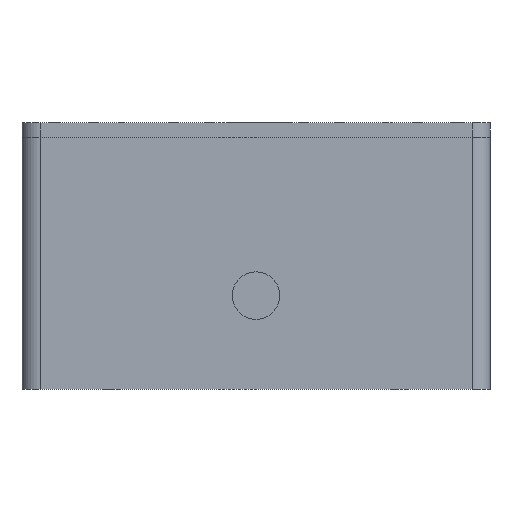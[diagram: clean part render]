
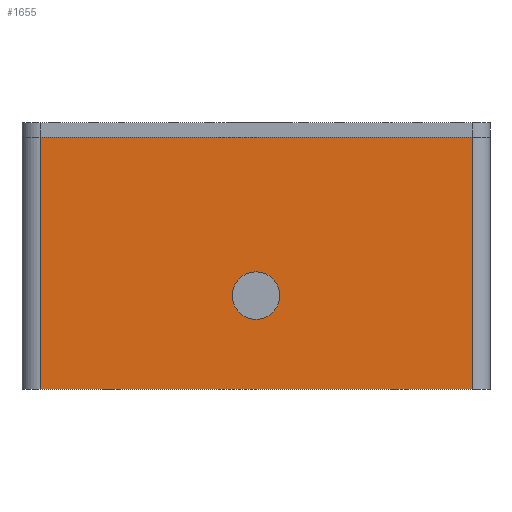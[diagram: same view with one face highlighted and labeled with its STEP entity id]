
A CAD part, front view. The second image highlights one B-rep face of the part: STEP entity #1655.
In plain terms, the highlighted planar face has unit normal (0, -1, 0).
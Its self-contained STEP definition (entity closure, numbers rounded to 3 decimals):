
#82 = PLANE('',#83);
#83 = AXIS2_PLACEMENT_3D('',#84,#85,#86);
#84 = CARTESIAN_POINT('',(0.,0.,70.));
#85 = DIRECTION('',(0.,0.,1.));
#86 = DIRECTION('',(1.,0.,0.));
#110 = CYLINDRICAL_SURFACE('',#111,5.);
#111 = AXIS2_PLACEMENT_3D('',#112,#113,#114);
#112 = CARTESIAN_POINT('',(5.,5.,0.));
#113 = DIRECTION('',(0.,0.,1.));
#114 = DIRECTION('',(-1.,-0.,0.));
#138 = PLANE('',#139);
#139 = AXIS2_PLACEMENT_3D('',#140,#141,#142);
#140 = CARTESIAN_POINT('',(0.,0.,0.));
#141 = DIRECTION('',(0.,0.,1.));
#142 = DIRECTION('',(1.,0.,0.));
#216 = VERTEX_POINT('',#217);
#217 = CARTESIAN_POINT('',(5.,0.,70.));
#239 = EDGE_CURVE('',#216,#240,#242,.T.);
#240 = VERTEX_POINT('',#241);
#241 = CARTESIAN_POINT('',(125.,0.,70.));
#242 = SURFACE_CURVE('',#243,(#247,#254),.PCURVE_S1.);
#243 = LINE('',#244,#245);
#244 = CARTESIAN_POINT('',(0.,0.,70.));
#245 = VECTOR('',#246,1.);
#246 = DIRECTION('',(1.,0.,0.));
#247 = PCURVE('',#82,#248);
#248 = DEFINITIONAL_REPRESENTATION('',(#249),#253);
#249 = LINE('',#250,#251);
#250 = CARTESIAN_POINT('',(0.,0.));
#251 = VECTOR('',#252,1.);
#252 = DIRECTION('',(1.,0.));
#253 = ( GEOMETRIC_REPRESENTATION_CONTEXT(2) 
PARAMETRIC_REPRESENTATION_CONTEXT() REPRESENTATION_CONTEXT('2D SPACE',''
  ) );
#254 = PCURVE('',#255,#260);
#255 = PLANE('',#256);
#256 = AXIS2_PLACEMENT_3D('',#257,#258,#259);
#257 = CARTESIAN_POINT('',(0.,0.,0.));
#258 = DIRECTION('',(0.,1.,0.));
#259 = DIRECTION('',(0.,0.,1.));
#260 = DEFINITIONAL_REPRESENTATION('',(#261),#265);
#261 = LINE('',#262,#263);
#262 = CARTESIAN_POINT('',(70.,0.));
#263 = VECTOR('',#264,1.);
#264 = DIRECTION('',(0.,1.));
#265 = ( GEOMETRIC_REPRESENTATION_CONTEXT(2) 
PARAMETRIC_REPRESENTATION_CONTEXT() REPRESENTATION_CONTEXT('2D SPACE',''
  ) );
#288 = CYLINDRICAL_SURFACE('',#289,5.);
#289 = AXIS2_PLACEMENT_3D('',#290,#291,#292);
#290 = CARTESIAN_POINT('',(125.,5.,0.));
#291 = DIRECTION('',(0.,0.,1.));
#292 = DIRECTION('',(1.,0.,-0.));
#1237 = VERTEX_POINT('',#1238);
#1238 = CARTESIAN_POINT('',(5.,0.,0.));
#1260 = EDGE_CURVE('',#1237,#216,#1261,.T.);
#1261 = SURFACE_CURVE('',#1262,(#1266,#1273),.PCURVE_S1.);
#1262 = LINE('',#1263,#1264);
#1263 = CARTESIAN_POINT('',(5.,0.,0.));
#1264 = VECTOR('',#1265,1.);
#1265 = DIRECTION('',(0.,0.,1.));
#1266 = PCURVE('',#110,#1267);
#1267 = DEFINITIONAL_REPRESENTATION('',(#1268),#1272);
#1268 = LINE('',#1269,#1270);
#1269 = CARTESIAN_POINT('',(1.571,0.));
#1270 = VECTOR('',#1271,1.);
#1271 = DIRECTION('',(0.,1.));
#1272 = ( GEOMETRIC_REPRESENTATION_CONTEXT(2) 
PARAMETRIC_REPRESENTATION_CONTEXT() REPRESENTATION_CONTEXT('2D SPACE',''
  ) );
#1273 = PCURVE('',#255,#1274);
#1274 = DEFINITIONAL_REPRESENTATION('',(#1275),#1279);
#1275 = LINE('',#1276,#1277);
#1276 = CARTESIAN_POINT('',(0.,5.));
#1277 = VECTOR('',#1278,1.);
#1278 = DIRECTION('',(1.,0.));
#1279 = ( GEOMETRIC_REPRESENTATION_CONTEXT(2) 
PARAMETRIC_REPRESENTATION_CONTEXT() REPRESENTATION_CONTEXT('2D SPACE',''
  ) );
#1342 = EDGE_CURVE('',#1237,#1343,#1345,.T.);
#1343 = VERTEX_POINT('',#1344);
#1344 = CARTESIAN_POINT('',(125.,0.,0.));
#1345 = SURFACE_CURVE('',#1346,(#1350,#1357),.PCURVE_S1.);
#1346 = LINE('',#1347,#1348);
#1347 = CARTESIAN_POINT('',(0.,0.,0.));
#1348 = VECTOR('',#1349,1.);
#1349 = DIRECTION('',(1.,0.,0.));
#1350 = PCURVE('',#138,#1351);
#1351 = DEFINITIONAL_REPRESENTATION('',(#1352),#1356);
#1352 = LINE('',#1353,#1354);
#1353 = CARTESIAN_POINT('',(0.,0.));
#1354 = VECTOR('',#1355,1.);
#1355 = DIRECTION('',(1.,0.));
#1356 = ( GEOMETRIC_REPRESENTATION_CONTEXT(2) 
PARAMETRIC_REPRESENTATION_CONTEXT() REPRESENTATION_CONTEXT('2D SPACE',''
  ) );
#1357 = PCURVE('',#255,#1358);
#1358 = DEFINITIONAL_REPRESENTATION('',(#1359),#1363);
#1359 = LINE('',#1360,#1361);
#1360 = CARTESIAN_POINT('',(0.,0.));
#1361 = VECTOR('',#1362,1.);
#1362 = DIRECTION('',(0.,1.));
#1363 = ( GEOMETRIC_REPRESENTATION_CONTEXT(2) 
PARAMETRIC_REPRESENTATION_CONTEXT() REPRESENTATION_CONTEXT('2D SPACE',''
  ) );
#1655 = ADVANCED_FACE('',(#1656,#1682),#255,.F.);
#1656 = FACE_BOUND('',#1657,.F.);
#1657 = EDGE_LOOP('',(#1658,#1659,#1660,#1661));
#1658 = ORIENTED_EDGE('',*,*,#1342,.F.);
#1659 = ORIENTED_EDGE('',*,*,#1260,.T.);
#1660 = ORIENTED_EDGE('',*,*,#239,.T.);
#1661 = ORIENTED_EDGE('',*,*,#1662,.F.);
#1662 = EDGE_CURVE('',#1343,#240,#1663,.T.);
#1663 = SURFACE_CURVE('',#1664,(#1668,#1675),.PCURVE_S1.);
#1664 = LINE('',#1665,#1666);
#1665 = CARTESIAN_POINT('',(125.,0.,0.));
#1666 = VECTOR('',#1667,1.);
#1667 = DIRECTION('',(0.,0.,1.));
#1668 = PCURVE('',#255,#1669);
#1669 = DEFINITIONAL_REPRESENTATION('',(#1670),#1674);
#1670 = LINE('',#1671,#1672);
#1671 = CARTESIAN_POINT('',(0.,125.));
#1672 = VECTOR('',#1673,1.);
#1673 = DIRECTION('',(1.,0.));
#1674 = ( GEOMETRIC_REPRESENTATION_CONTEXT(2) 
PARAMETRIC_REPRESENTATION_CONTEXT() REPRESENTATION_CONTEXT('2D SPACE',''
  ) );
#1675 = PCURVE('',#288,#1676);
#1676 = DEFINITIONAL_REPRESENTATION('',(#1677),#1681);
#1677 = LINE('',#1678,#1679);
#1678 = CARTESIAN_POINT('',(-1.571,0.));
#1679 = VECTOR('',#1680,1.);
#1680 = DIRECTION('',(-0.,1.));
#1681 = ( GEOMETRIC_REPRESENTATION_CONTEXT(2) 
PARAMETRIC_REPRESENTATION_CONTEXT() REPRESENTATION_CONTEXT('2D SPACE',''
  ) );
#1682 = FACE_BOUND('',#1683,.F.);
#1683 = EDGE_LOOP('',(#1684));
#1684 = ORIENTED_EDGE('',*,*,#1685,.T.);
#1685 = EDGE_CURVE('',#1686,#1686,#1688,.T.);
#1686 = VERTEX_POINT('',#1687);
#1687 = CARTESIAN_POINT('',(71.6,0.,26.));
#1688 = SURFACE_CURVE('',#1689,(#1694,#1705),.PCURVE_S1.);
#1689 = CIRCLE('',#1690,6.6);
#1690 = AXIS2_PLACEMENT_3D('',#1691,#1692,#1693);
#1691 = CARTESIAN_POINT('',(65.,0.,26.));
#1692 = DIRECTION('',(0.,-1.,0.));
#1693 = DIRECTION('',(1.,0.,0.));
#1694 = PCURVE('',#255,#1695);
#1695 = DEFINITIONAL_REPRESENTATION('',(#1696),#1704);
#1696 = ( BOUNDED_CURVE() B_SPLINE_CURVE(2,(#1697,#1698,#1699,#1700,
#1701,#1702,#1703),.UNSPECIFIED.,.T.,.F.) B_SPLINE_CURVE_WITH_KNOTS((1,2
    ,2,2,2,1),(-2.094,0.,2.094,4.189,
6.283,8.378),.UNSPECIFIED.) CURVE() 
GEOMETRIC_REPRESENTATION_ITEM() RATIONAL_B_SPLINE_CURVE((1.,0.5,1.,0.5,
1.,0.5,1.)) REPRESENTATION_ITEM('') );
#1697 = CARTESIAN_POINT('',(26.,71.6));
#1698 = CARTESIAN_POINT('',(37.432,71.6));
#1699 = CARTESIAN_POINT('',(31.716,61.7));
#1700 = CARTESIAN_POINT('',(26.,51.8));
#1701 = CARTESIAN_POINT('',(20.284,61.7));
#1702 = CARTESIAN_POINT('',(14.568,71.6));
#1703 = CARTESIAN_POINT('',(26.,71.6));
#1704 = ( GEOMETRIC_REPRESENTATION_CONTEXT(2) 
PARAMETRIC_REPRESENTATION_CONTEXT() REPRESENTATION_CONTEXT('2D SPACE',''
  ) );
#1705 = PCURVE('',#1706,#1711);
#1706 = CYLINDRICAL_SURFACE('',#1707,6.6);
#1707 = AXIS2_PLACEMENT_3D('',#1708,#1709,#1710);
#1708 = CARTESIAN_POINT('',(65.,0.,26.));
#1709 = DIRECTION('',(0.,-1.,0.));
#1710 = DIRECTION('',(1.,0.,0.));
#1711 = DEFINITIONAL_REPRESENTATION('',(#1712),#1716);
#1712 = LINE('',#1713,#1714);
#1713 = CARTESIAN_POINT('',(0.,0.));
#1714 = VECTOR('',#1715,1.);
#1715 = DIRECTION('',(1.,0.));
#1716 = ( GEOMETRIC_REPRESENTATION_CONTEXT(2) 
PARAMETRIC_REPRESENTATION_CONTEXT() REPRESENTATION_CONTEXT('2D SPACE',''
  ) );
